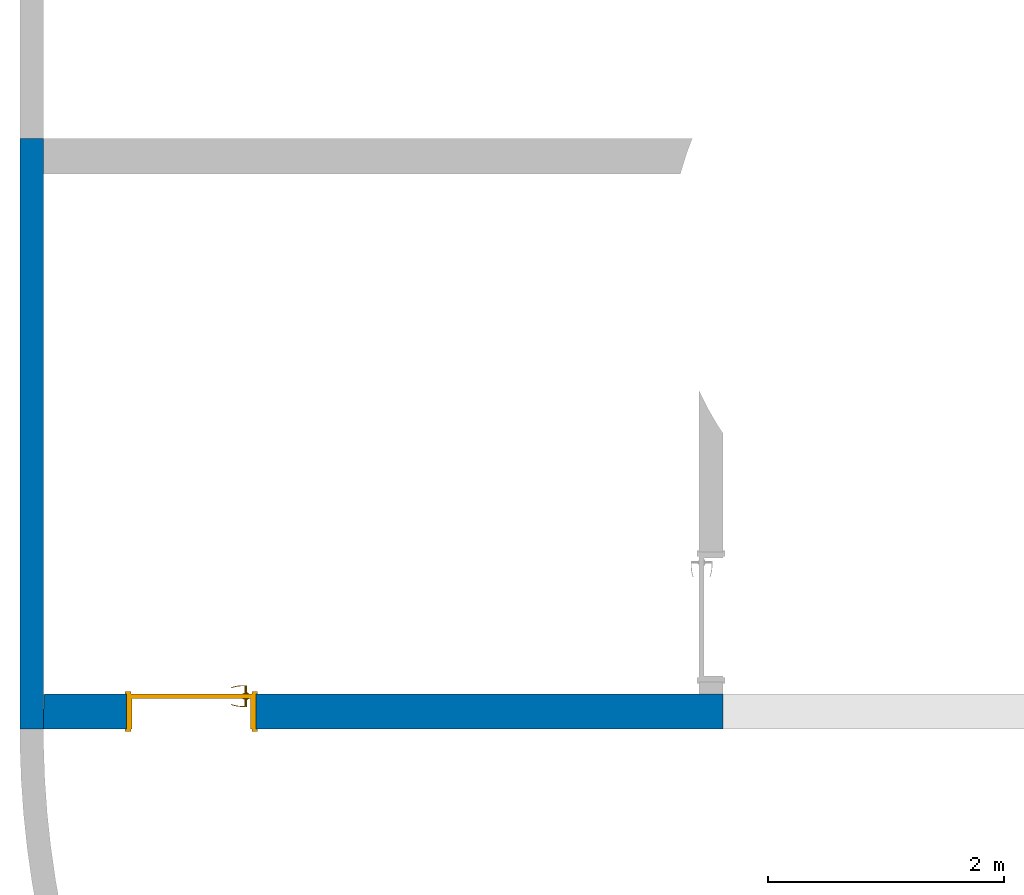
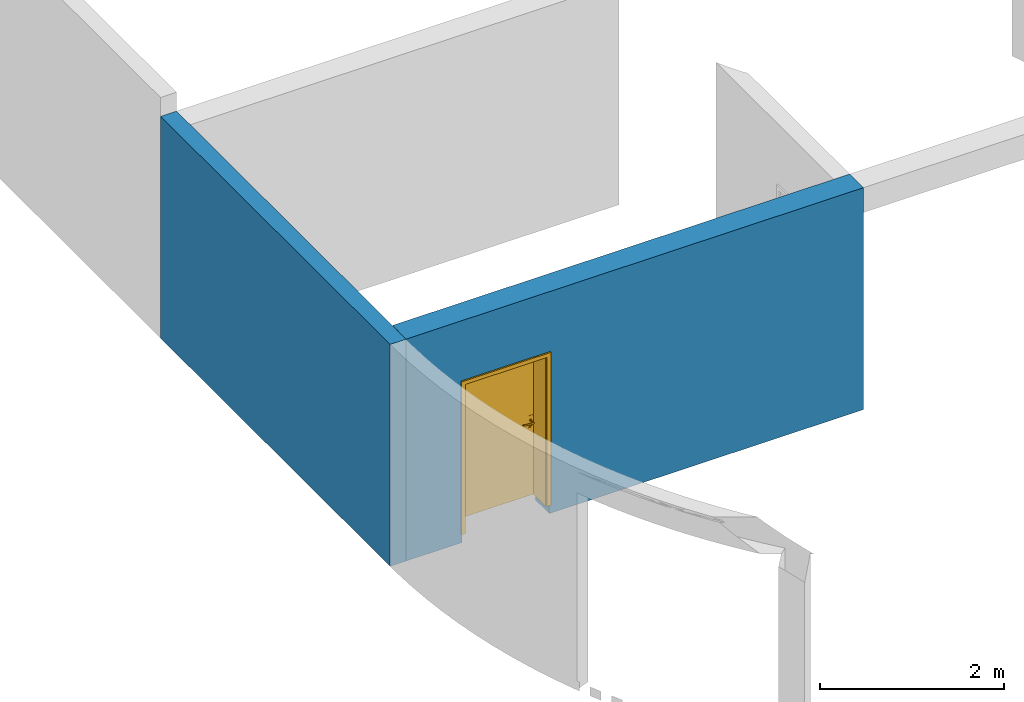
# One storey, part 2 of 6: 2 walls, 1 door, 1 opening.
"""IFC4 building model written with IfcOpenShell, lengths in millimetres."""

import ifcopenshell
import ifcopenshell.guid

model = None  # the IFC model being written
_history = None  # IfcOwnerHistory: only IFC2X3 demands one
_inside = {}  # id of a spatial element -> (the spatial element, [elements in it])
_under = {}  # id of a project, library or spatial element -> (it, [spatial elements below it])
_declared = {}  # id of a project -> (the project, [libraries it declares])
_typed = {}  # id of a type object -> (the type object, [elements of that type])
_made_of = {}  # id of a material, layer set ... -> (it, [elements and type objects made of it])


def new_model(schema):
    """Start an empty IFC model of exactly this schema.

    Asked for "IFC4X3", IfcOpenShell would pick the latest addendum, in which some entities
    have other attributes; the version numbers below select the first issue.
    IFC2X3 requires an IfcOwnerHistory on every rooted entity: one is made here for all.
    """
    global model, _history
    if schema == "IFC4X3":
        model = ifcopenshell.file(schema_version=(4, 3, 0, 0))
    else:
        model = ifcopenshell.file(schema=schema)
    _inside.clear()
    _under.clear()
    _declared.clear()
    _typed.clear()
    _made_of.clear()
    _history = None
    if model.schema == "IFC2X3":
        org = make("IfcOrganization", Name="unknown")
        user = make(
            "IfcPersonAndOrganization",
            ThePerson=make("IfcPerson", FamilyName="unknown"),
            TheOrganization=org,
        )
        app = make(
            "IfcApplication",
            ApplicationDeveloper=org,
            Version="unknown",
            ApplicationFullName="unknown",
            ApplicationIdentifier="unknown",
        )
        _history = make(
            "IfcOwnerHistory",
            OwningUser=user,
            OwningApplication=app,
            ChangeAction="ADDED",
            CreationDate=0,
        )
    return model


def make(cls, **values):
    """One entity of the class cls with the attributes given. An attribute that is None is left unset."""
    return model.create_entity(
        cls, **{name: value for name, value in values.items() if value is not None}
    )


def entity(cls, *values):
    """Any entity or typed value of the class cls, its attributes in the order of the schema. None: left unset."""
    e = model.create_entity(cls)
    for i, value in enumerate(values):
        if value is not None:
            e[i] = value
    return e


def rooted(cls, **values):
    """An entity with a GlobalId (a new one), such as an element, a storey or a relation."""
    return make(cls, GlobalId=ifcopenshell.guid.new(), OwnerHistory=_history, **values)


def si_unit(unit_type, name, prefix=None):
    """IfcSIUnit, for example si_unit("LENGTHUNIT", "METRE", prefix="MILLI")."""
    return make("IfcSIUnit", UnitType=unit_type, Prefix=prefix, Name=name)


def converted_unit(unit_type, name, factor, base, dimensions=None, offset=None):
    """IfcConversionBasedUnit, such as the inch: factor (a typed value) times the base unit."""
    return make(
        "IfcConversionBasedUnit"
        if offset is None
        else "IfcConversionBasedUnitWithOffset",
        ConversionOffset=offset,
        Dimensions=None
        if dimensions is None
        else entity("IfcDimensionalExponents", *dimensions),
        UnitType=unit_type,
        Name=name,
        ConversionFactor=make(
            "IfcMeasureWithUnit", ValueComponent=factor, UnitComponent=base
        ),
    )


def derived_unit(unit_type, elements):
    """IfcDerivedUnit: a product of units, each with its exponent."""
    return make(
        "IfcDerivedUnit",
        Elements=[
            make("IfcDerivedUnitElement", Unit=unit, Exponent=power)
            for unit, power in elements
        ],
        UnitType=unit_type,
    )


def assignment(units):
    """IfcUnitAssignment: the units of a project."""
    return None if units is None else make("IfcUnitAssignment", Units=units)


def point(xyz):
    """IfcCartesianPoint."""
    return None if xyz is None else make("IfcCartesianPoint", Coordinates=xyz)


def direction(xyz):
    """IfcDirection."""
    return None if xyz is None else make("IfcDirection", DirectionRatios=xyz)


def frame(location, z_axis=None, x_axis=None):
    """IfcAxis2Placement3D, a coordinate frame: its origin and axes. An axis left out is left unset."""
    return make(
        "IfcAxis2Placement3D",
        Location=point(location),
        Axis=direction(z_axis),
        RefDirection=direction(x_axis),
    )


def origin_with_axes():
    """The frame at (0, 0, 0) with the z axis (0, 0, 1) and the x axis (1, 0, 0) written out."""
    return frame((0.0, 0.0, 0.0), z_axis=(0.0, 0.0, 1.0), x_axis=(1.0, 0.0, 0.0))


def place(relative_to, where):
    """IfcLocalPlacement: puts the frame where relative to a parent placement (None: the world)."""
    return make(
        "IfcLocalPlacement", PlacementRelTo=relative_to, RelativePlacement=where
    )


def context(
    kind, dimensions, precision=None, world=None, true_north=None, identifier=None
):
    """IfcGeometricRepresentationContext, for example the 3D "Model" context."""
    return make(
        "IfcGeometricRepresentationContext",
        ContextIdentifier=identifier,
        ContextType=kind,
        CoordinateSpaceDimension=dimensions,
        Precision=precision,
        WorldCoordinateSystem=world,
        TrueNorth=true_north,
    )


def subcontext(parent, identifier, kind, view, scale=None):
    """IfcGeometricRepresentationSubContext, for example "Body" below "Model"."""
    return make(
        "IfcGeometricRepresentationSubContext",
        ContextIdentifier=identifier,
        ContextType=kind,
        ParentContext=parent,
        TargetScale=scale,
        TargetView=view,
    )


def project(units=None, contexts=None):
    """IfcProject with its units and contexts."""
    return rooted(
        "IfcProject",
        Name="project",
        RepresentationContexts=contexts,
        UnitsInContext=assignment(units),
    )


def spatial(cls, under=None, at=None, **own):
    """A site, building, storey or space (cls), placed at a placement, below another one or the project."""
    s = rooted(cls, ObjectPlacement=at, **own)
    if under is not None:
        _under.setdefault(under.id(), (under, []))[1].append(s)
    return s


def point_list(points):
    """IfcCartesianPointList2D or 3D."""
    cls = (
        "IfcCartesianPointList2D" if len(points[0]) == 2 else "IfcCartesianPointList3D"
    )
    return make(cls, CoordList=points)


def polygons(points, faces, closed=None, point_numbers=None):
    """IfcPolygonalFaceSet: a face is its outer loop, then its inner loops; points numbered from 1."""
    made = []
    for loops in faces:
        if len(loops) == 1:
            made.append(make("IfcIndexedPolygonalFace", CoordIndex=loops[0]))
        else:
            made.append(
                make(
                    "IfcIndexedPolygonalFaceWithVoids",
                    CoordIndex=loops[0],
                    InnerCoordIndices=loops[1:],
                )
            )
    return make(
        "IfcPolygonalFaceSet",
        Coordinates=point_list(points),
        Closed=closed,
        Faces=made,
        PnIndex=point_numbers,
    )


def shape(context_of_items, identifier, shape_type, items):
    """IfcShapeRepresentation: the items that make up one representation, for example the "Body"."""
    return make(
        "IfcShapeRepresentation",
        ContextOfItems=context_of_items,
        RepresentationIdentifier=identifier,
        RepresentationType=shape_type,
        Items=items,
    )


def material(Name=None, Category=None):
    """IfcMaterial."""
    return make("IfcMaterial", Name=Name, Category=Category)


def constituent(of_material, Name=None, Category=None, fraction=None):
    """IfcMaterialConstituent: one of the materials an element consists of."""
    return make(
        "IfcMaterialConstituent",
        Name=Name,
        Material=of_material,
        Fraction=fraction,
        Category=Category,
    )


def constituent_set(constituents=None, Name=None):
    """IfcMaterialConstituentSet."""
    return make(
        "IfcMaterialConstituentSet", Name=Name, MaterialConstituents=constituents
    )


def made_of(thing, what):
    """Note that an element or type object is made of a material, layer set ...; save() writes the relation."""
    if what is not None:
        _made_of.setdefault(what.id(), (what, []))[1].append(thing)
    return thing


def type_object(cls, material=None, **own):
    """A type object (cls), such as IfcWallType, which elements share."""
    return made_of(rooted(cls, **own), material)


def element(
    cls,
    number,
    at=None,
    inside=None,
    cuts=None,
    type_object=None,
    material=None,
    context=None,
    identifier="Body",
    shape_type=None,
    held_by="IfcProductDefinitionShape",
    body=None,
    shapes=None,
    **own,
):
    """One element of the class cls, such as IfcWall. Its Tag is "e" and its number.

    at: its placement. inside: the storey or other place that contains it. cuts: it is an
    opening in that element (IfcRelVoidsElement). A single representation is given by context,
    identifier, shape_type and body (its items); several are given by shapes. held_by: the class
    of the entity that holds the representations. save() writes the other relations.
    """
    e = rooted(cls, Tag="e%d" % number, ObjectPlacement=at, **own)
    if body is not None:
        shapes = [shape(context, identifier, shape_type, body)]
    if shapes is not None:
        e.Representation = make(held_by, Representations=shapes)
    if inside is not None:
        _inside.setdefault(inside.id(), (inside, []))[1].append(e)
    if cuts is not None:
        rooted(
            "IfcRelVoidsElement", RelatingBuildingElement=cuts, RelatedOpeningElement=e
        )
    if type_object is not None:
        _typed.setdefault(type_object.id(), (type_object, []))[1].append(e)
    return made_of(e, material)


def fill(opening, filler):
    """IfcRelFillsElement: the door or window that sits in an opening."""
    return rooted(
        "IfcRelFillsElement",
        RelatingOpeningElement=opening,
        RelatedBuildingElement=filler,
    )


def aggregate(whole, parts):
    """IfcRelAggregates: a whole, such as a stair, and the parts it consists of."""
    return rooted("IfcRelAggregates", RelatingObject=whole, RelatedObjects=parts)


def save(model, path):
    """Write the relations noted so far, then the file.

    IfcRelAggregates (storeys below a building ...), IfcRelContainedInSpatialStructure (elements
    in a storey), IfcRelDefinesByType, IfcRelAssociatesMaterial and IfcRelDeclares: one each for
    every whole, place, type object, material and project.
    """
    for whole, parts in _under.values():
        aggregate(whole, parts)
    for where, things in _inside.values():
        rooted(
            "IfcRelContainedInSpatialStructure",
            RelatedElements=things,
            RelatingStructure=where,
        )
    for kind, things in _typed.values():
        rooted("IfcRelDefinesByType", RelatedObjects=things, RelatingType=kind)
    for what, things in _made_of.values():
        rooted("IfcRelAssociatesMaterial", RelatedObjects=things, RelatingMaterial=what)
    for by, libraries in _declared.values():
        rooted("IfcRelDeclares", RelatingContext=by, RelatedDefinitions=libraries)
    model.write(path)


model = new_model("IFC4")

# Units and contexts
model_context = context("Model", 3, precision=0.01, world=origin_with_axes(), true_north=direction((0.0, 1.0)))
body_context = subcontext(model_context, "Body", "Model", "MODEL_VIEW")
ifc_project = project(units=[si_unit("LENGTHUNIT", "METRE", prefix="MILLI"), si_unit("AREAUNIT", "SQUARE_METRE"), si_unit("VOLUMEUNIT", "CUBIC_METRE"), converted_unit("PLANEANGLEUNIT", "DEGREE", entity("IfcPlaneAngleMeasure", 0.0174532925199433), si_unit("PLANEANGLEUNIT", "RADIAN"), dimensions=[0, 0, 0, 0, 0, 0, 0]), converted_unit("TIMEUNIT", "Year", entity("IfcTimeMeasure", 31557600.0), si_unit("TIMEUNIT", "SECOND"), dimensions=[0, 0, 1, 0, 0, 0, 0]), si_unit("MASSUNIT", "GRAM", prefix="KILO"), si_unit("THERMODYNAMICTEMPERATUREUNIT", "DEGREE_CELSIUS"), si_unit("LUMINOUSINTENSITYUNIT", "LUMEN"), si_unit("ENERGYUNIT", "JOULE", prefix="MEGA"), derived_unit("THERMALCONDUCTANCEUNIT", [(si_unit("POWERUNIT", "WATT"), 1), (si_unit("LENGTHUNIT", "METRE"), -1), (si_unit("THERMODYNAMICTEMPERATUREUNIT", "KELVIN"), -1)]), derived_unit("SPECIFICHEATCAPACITYUNIT", [(si_unit("ENERGYUNIT", "JOULE"), 1), (si_unit("MASSUNIT", "GRAM", prefix="KILO"), -1), (si_unit("THERMODYNAMICTEMPERATUREUNIT", "KELVIN"), -1)]), derived_unit("MASSDENSITYUNIT", [(si_unit("MASSUNIT", "GRAM", prefix="KILO"), 1), (si_unit("VOLUMEUNIT", "CUBIC_METRE"), -1)])], contexts=[model_context])

# Site, building, storey
site_placement = place(None, origin_with_axes())
site = spatial("IfcSite", under=ifc_project, at=site_placement, Name="Exteriér", CompositionType="ELEMENT")
building_placement = place(site_placement, origin_with_axes())
building = spatial("IfcBuilding", under=site, at=building_placement, Name="Univerzitní lezecké centrum", CompositionType="ELEMENT")
storey_placement = place(building_placement, origin_with_axes())
storey = spatial("IfcBuildingStorey", under=building, at=storey_placement, Name="1.NP", CompositionType="ELEMENT", Elevation=0.0)

# Wall
ifc_material_1 = material(Name="Beton vyztužený - vnější svislé kce")
ifc_constituent_1 = constituent(ifc_material_1, Name="Beton vyztužený - vnější svislé kce")
ifc_constituent_set_1 = constituent_set(constituents=[ifc_constituent_1], Name="!Vnější betonová stěna 200 mm")
wall_type_1 = type_object("IfcWallType", Name="!Vnější betonová stěna 200 mm 200", PredefinedType="NOTDEFINED")
wall_1_placement = place(storey_placement, frame((-5550.148351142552, 4700.000000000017, -120.000000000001), z_axis=(0.0, 0.0, 1.0), x_axis=(0.0, -1.0, 0.0)))
element("IfcWall", 1, at=wall_1_placement, inside=storey, type_object=wall_type_1, material=ifc_constituent_set_1, Name="St01", PredefinedType="NOTDEFINED", context=body_context, shape_type="Tessellation", body=[
    polygons([(5000.0, 0.0, 0.0), (5000.0, -200.0000000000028, 0.0), (0.0, -200.0000000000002, 0.0), (0.0, 0.0, 0.0), (5000.0, 0.0, 2950.000000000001), (5000.0, -200.000000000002, 2950.000000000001), (0.0, -200.0000000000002, 2950.000000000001), (0.0, 0.0, 2950.000000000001)], [[[1, 2, 3, 4]], [[2, 1, 5, 6]], [[2, 6, 7, 3]], [[8, 4, 3, 7]], [[5, 1, 4, 8]], [[6, 5, 8, 7]]], closed=True),
])

# Wall, opening, door
ifc_material_2 = material(Name="Beton vyztužený - vnitřní svislé kce")
ifc_constituent_2 = constituent(ifc_material_2, Name="Beton vyztužený - vnitřní svislé kce")
ifc_constituent_set_2 = constituent_set(constituents=[ifc_constituent_2], Name="!Vnitřní betonová stěna 300 mm")
wall_type_2 = type_object("IfcWallType", Name="!Vnitřní betonová stěna 300 mm 300", PredefinedType="NOTDEFINED")
wall_2_placement = place(storey_placement, frame((-5550.148351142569, -299.9999999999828, -120.000000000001), z_axis=(0.0, 0.0, 1.0), x_axis=(1.0, 0.0, 0.0)))
wall_2 = element("IfcWall", 2, at=wall_2_placement, inside=storey, type_object=wall_type_2, material=ifc_constituent_set_2, Name="St04", PredefinedType="NOTDEFINED", context=body_context, shape_type="Tessellation", body=[
    polygons([(699.9999301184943, -3.492870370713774e-05, 0.4999999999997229), (699.9999301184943, 300.0000738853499, 0.4999999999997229), (700.0000000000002, 300.0000119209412, 120.000000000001), (700.0000000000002, 0.0, 120.000000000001), (699.9999301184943, 300.0000738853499, 0.0), (699.9999301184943, -3.492870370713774e-05, 0.0), (1800.000087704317, 300.0000738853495, 0.0), (1800.000087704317, 300.0000738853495, 0.4999999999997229), (1800.0, 300.0000119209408, 120.000000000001), (1800.0, 299.9999999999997, 2140.000000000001), (700.0000000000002, 299.9999999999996, 2140.000000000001), (5.610552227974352, 300.0000119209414, 0.0), (5.610552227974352, 300.0000119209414, 2950.000000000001), (5750.148356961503, 299.9999999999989, 2950.000000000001), (5750.148352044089, 299.9999999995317, 1440.000000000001), (5750.148352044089, 299.9999999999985, 120.000000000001), (5750.148352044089, 299.9999999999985, 0.0), (700.0000000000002, 0.0, 2140.000000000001), (1800.000087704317, -3.492870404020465e-05, 0.4999999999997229), (1800.000087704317, -3.492870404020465e-05, 0.0), (5750.176837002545, 0.0, 0.0), (5750.176837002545, 0.0, 120.000000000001), (5750.176837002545, -4.68292071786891e-10, 1440.000000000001), (5750.176841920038, 0.0, 2950.000000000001), (0.0, 0.0, 2950.000000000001), (0.0, 0.0, 0.0), (1800.0, 0.0, 2140.000000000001), (1800.0, 0.0, 120.000000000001), (-0.00011699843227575, 142.0078008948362, 0.0), (-0.00011699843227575, 142.0078008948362, 2950.000000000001)], [[[1, 2, 3, 4]], [[5, 2, 1, 6]], [[7, 8, 9, 10, 11, 3, 2, 5, 12, 13, 14, 15, 16, 17]], [[4, 3, 11, 18]], [[19, 20, 21, 22, 23, 24, 25, 26, 6, 1, 4, 18, 27, 28]], [[5, 6, 26, 29, 12]], [[19, 8, 7, 20]], [[8, 19, 28, 9]], [[27, 10, 9, 28]], [[18, 11, 10, 27]], [[29, 30, 13, 12]], [[13, 30, 25, 24, 14]], [[14, 24, 23, 15]], [[22, 16, 15, 23]], [[21, 17, 16, 22]], [[20, 7, 17, 21]], [[25, 30, 29, 26]]], closed=True),
])
opening_placement = place(wall_2_placement, frame((1250.0, 0.0, 120.000000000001), z_axis=(0.0, 0.0, 1.0), x_axis=(1.0, 0.0, 0.0)))
opening = element("IfcOpeningElement", 3, at=opening_placement, cuts=wall_2, Name="D12", context=body_context, identifier="Reference", shape_type="Tessellation", body=[
    polygons([(-549.9999999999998, 301.0000000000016, 2020.0), (549.9999999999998, 301.0000000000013, 2020.0), (549.9999999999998, 301.0000000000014, 0.0), (-549.9999999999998, 301.0000000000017, 0.0), (-562.0000000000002, 301.0000000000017, 0.0), (-562.0000000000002, 301.0000000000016, 2032.0), (562.0000000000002, 301.0000000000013, 2032.0), (562.0000000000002, 301.0000000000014, 0.0), (-549.9999999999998, 299.9999999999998, 0.0), (549.9999999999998, 299.9999999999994, 0.0), (549.9999999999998, 0.0, 0.0), (549.9999999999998, -1.000000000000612, 0.0), (-549.9999999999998, -1.000000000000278, 0.0), (-549.9999999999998, 0.0, 0.0), (-562.0000000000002, 299.9999999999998, 0.0), (-562.0000000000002, 299.9999999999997, 2032.0), (562.0000000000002, 299.9999999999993, 2032.0), (562.0000000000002, 299.9999999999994, 0.0), (549.9999999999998, 299.9999999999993, 2020.0), (549.9999999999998, 0.0, 2020.0), (562.0000000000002, 0.0, 0.0), (562.0000000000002, -1.000000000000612, 0.0), (562.0000000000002, -1.000000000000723, 2032.0), (-562.0000000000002, -1.000000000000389, 2032.0), (-562.0000000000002, -1.000000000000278, 0.0), (-562.0000000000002, 0.0, 0.0), (-549.9999999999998, 299.9999999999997, 2020.0), (-549.9999999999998, 0.0, 2020.0), (-562.0000000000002, 0.0, 2032.0), (562.0000000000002, 0.0, 2032.0)], [[[1, 2, 3, 4]], [[3, 2, 1, 4, 5, 6, 7, 8]], [[9, 4, 3, 10, 11, 12, 13, 14]], [[4, 9, 15, 5]], [[15, 16, 6, 5]], [[16, 17, 7, 6]], [[17, 18, 8, 7]], [[10, 3, 8, 18]], [[10, 19, 20, 11]], [[12, 11, 21, 22]], [[13, 12, 22, 23, 24, 25]], [[14, 13, 25, 26]], [[27, 9, 14, 28]], [[27, 19, 10, 18, 17, 16, 15, 9]], [[19, 27, 28, 20]], [[11, 20, 28, 14, 26, 29, 30, 21]], [[21, 30, 23, 22]], [[30, 29, 24, 23]], [[29, 26, 25, 24]]], closed=True),
])
door_type = type_object("IfcDoorType", Name="Dveře 24", OperationType="SINGLE_SWING_LEFT", PredefinedType="NOTDEFINED")
door_placement = place(opening_placement, frame((-500.0, 0.0, 0.0), z_axis=(0.0, 0.0, 1.0), x_axis=(1.0, 0.0, 0.0)))
door = element("IfcDoor", 4, at=door_placement, inside=storey, type_object=door_type, Name="D12", OverallHeight=2020.0, OverallWidth=1100.0, PredefinedType="NOTDEFINED", context=body_context, shape_type="Tessellation", body=[
    polygons([(1062.0, 0.0, 0.0), (1062.0, -19.00000000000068, 0.0), (1012.0, -19.00000000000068, 0.0), (1012.0, 0.0, 0.0), (1062.0, 0.0, 2032.0), (1062.0, -19.00000000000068, 2032.0), (1012.0, -19.00000000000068, 1982.0), (1012.0, 0.0, 1982.0)], [[[1, 2, 3, 4]], [[5, 6, 2, 1]], [[3, 2, 6, 7]], [[4, 3, 7, 8]], [[5, 1, 4, 8]], [[8, 7, 6, 5]]], closed=True),
    polygons([(-62.00000000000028, 0.0, 2032.0), (-62.00000000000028, -19.00000000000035, 2032.0), (-12.00000000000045, -19.00000000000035, 1982.0), (-12.00000000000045, 0.0, 1982.0), (-62.00000000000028, 0.0, 0.0), (-62.00000000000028, -19.00000000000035, 0.0), (-12.00000000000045, -19.00000000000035, 0.0), (-12.00000000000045, 0.0, 0.0)], [[[1, 2, 3, 4]], [[5, 6, 2, 1]], [[3, 2, 6, 7]], [[4, 3, 7, 8]], [[5, 1, 4, 8]], [[8, 7, 6, 5]]], closed=True),
    polygons([(1012.0, 318.9999999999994, 0.0), (1062.0, 318.9999999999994, 0.0), (1062.0, 299.9999999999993, 0.0), (1012.0, 299.9999999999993, 0.0), (1062.0, 318.9999999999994, 2032.0), (1012.0, 318.9999999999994, 1982.0), (1062.0, 299.9999999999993, 2032.0), (1012.0, 299.9999999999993, 1982.0)], [[[1, 2, 3, 4]], [[5, 2, 1, 6]], [[2, 5, 7, 3]], [[4, 3, 7, 8]], [[6, 1, 4, 8]], [[5, 6, 8, 7]]], closed=True),
    polygons([(-12.00000000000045, 318.9999999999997, 1982.0), (-62.00000000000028, 318.9999999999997, 2032.0), (-62.00000000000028, 299.9999999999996, 2032.0), (-12.00000000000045, 299.9999999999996, 1982.0), (-62.00000000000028, 318.9999999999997, 0.0), (-12.00000000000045, 318.9999999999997, 0.0), (-62.00000000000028, 299.9999999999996, 0.0), (-12.00000000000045, 299.9999999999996, 0.0)], [[[1, 2, 3, 4]], [[5, 2, 1, 6]], [[2, 5, 7, 3]], [[4, 3, 7, 8]], [[6, 1, 4, 8]], [[5, 6, 8, 7]]], closed=True),
    polygons([(1000.0, 259.9999999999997, 1970.0), (1000.0, 259.9999999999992, 0.0), (1000.0, 0.0, 0.0), (1000.0, 0.0, 1970.0), (1012.0, 259.9999999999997, 1970.0), (1012.0, 259.9999999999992, 0.0), (1012.0, 299.9999999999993, 0.0), (1050.0, 299.9999999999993, 0.0), (1050.0, 0.0, 0.0), (1050.0, 0.0, 1970.0), (1012.0, 299.9999999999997, 1970.0), (1050.0, 299.9999999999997, 1970.0)], [[[1, 2, 3, 4]], [[1, 5, 6, 2]], [[2, 6, 7, 8, 9, 3]], [[4, 3, 9, 10]], [[11, 5, 1, 4, 10, 12]], [[5, 11, 7, 6]], [[7, 11, 12, 8]], [[9, 8, 12, 10]]], closed=True),
    polygons([(0.0, 260.0, 1970.0), (-12.00000000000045, 260.0, 1970.0), (-12.00000000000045, 300.0000000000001, 1970.0), (-49.99999999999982, 300.0000000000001, 1970.0), (-49.99999999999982, 0.0, 1970.0), (0.0, 0.0, 1970.0), (0.0, 259.9999999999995, 0.0), (-12.00000000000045, 259.9999999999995, 0.0), (-12.00000000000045, 299.9999999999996, 0.0), (-49.99999999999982, 299.9999999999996, 0.0), (-49.99999999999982, 0.0, 0.0), (0.0, 0.0, 0.0)], [[[1, 2, 3, 4, 5, 6]], [[2, 1, 7, 8]], [[3, 2, 8, 9]], [[3, 9, 10, 4]], [[5, 4, 10, 11]], [[6, 5, 11, 12]], [[7, 1, 6, 12]], [[9, 8, 7, 12, 11, 10]]], closed=True),
    polygons([(-12.00000000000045, 259.9999999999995, 0.0), (-12.00000000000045, 299.9999999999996, 0.0), (1012.0, 299.9999999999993, 0.0), (1012.0, 259.9999999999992, 0.0), (-12.00000000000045, 259.9999999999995, 1982.0), (-12.00000000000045, 299.9999999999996, 1982.0), (1012.0, 299.9999999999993, 1982.0), (1012.0, 259.9999999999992, 1982.0)], [[[1, 2, 3, 4]], [[5, 6, 2, 1]], [[3, 2, 6, 7]], [[4, 3, 7, 8]], [[5, 1, 4, 8]], [[8, 7, 6, 5]]], closed=True),
    polygons([(1062.0, -19.00000000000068, 2032.0), (1012.0, -19.00000000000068, 1982.0), (1012.0, 0.0, 1982.0), (1062.0, 0.0, 2032.0), (-62.00000000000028, -19.00000000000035, 2032.0), (-12.00000000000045, -19.00000000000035, 1982.0), (-12.00000000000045, 0.0, 1982.0), (-62.00000000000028, 0.0, 2032.0)], [[[1, 2, 3, 4]], [[1, 5, 6, 2]], [[2, 6, 7, 3]], [[4, 3, 7, 8]], [[5, 1, 4, 8]], [[6, 5, 8, 7]]], closed=True),
    polygons([(1062.0, 318.9999999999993, 2032.0), (1062.0, 299.9999999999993, 2032.0), (1012.0, 299.9999999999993, 1982.0), (1012.0, 318.9999999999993, 1982.0), (-62.00000000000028, 318.9999999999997, 2032.0), (-62.00000000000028, 299.9999999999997, 2032.0), (-12.00000000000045, 299.9999999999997, 1982.0), (-12.00000000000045, 318.9999999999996, 1982.0)], [[[1, 2, 3, 4]], [[5, 6, 2, 1]], [[2, 6, 7, 3]], [[4, 3, 7, 8]], [[1, 4, 8, 5]], [[8, 7, 6, 5]]], closed=True),
    polygons([(1012.0, 299.9999999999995, 1982.0), (-12.00000000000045, 299.9999999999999, 1982.0), (-12.00000000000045, 299.9999999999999, 1970.0), (-49.99999999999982, 299.9999999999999, 1970.0), (-49.99999999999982, 299.9999999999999, 2020.0), (1050.0, 299.9999999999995, 2020.0), (1050.0, 299.9999999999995, 1970.0), (1012.0, 299.9999999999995, 1970.0), (1012.0, 259.9999999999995, 1982.0), (-12.00000000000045, 259.9999999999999, 1982.0), (-12.00000000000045, 259.9999999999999, 1970.0), (0.0, 259.9999999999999, 1970.0), (0.0, 0.0, 1970.0), (-49.99999999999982, 0.0, 1970.0), (-49.99999999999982, 0.0, 2020.0), (1050.0, 0.0, 2020.0), (1050.0, 0.0, 1970.0), (1012.0, 259.9999999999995, 1970.0), (1000.0, 0.0, 1970.0), (1000.0, 259.9999999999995, 1970.0)], [[[1, 2, 3, 4, 5, 6, 7, 8]], [[1, 9, 10, 2]], [[2, 10, 11, 3]], [[11, 12, 13, 14, 4, 3]], [[5, 4, 14, 15]], [[6, 5, 15, 16]], [[7, 6, 16, 17]], [[18, 8, 7, 17, 19, 20]], [[8, 18, 9, 1]], [[11, 10, 9, 18, 20, 12]], [[20, 19, 13, 12]], [[13, 19, 17, 16, 15, 14]]], closed=True),
    polygons([(990.4999999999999, 259.9999999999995, 1060.0), (933.5, 259.9999999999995, 1060.0), (933.5, 256.9999999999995, 1060.0), (990.4999999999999, 256.9999999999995, 1060.0), (990.4999999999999, 259.9999999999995, 870.0), (933.5, 259.9999999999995, 870.0), (933.5, 256.9999999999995, 870.0), (990.4999999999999, 256.9999999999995, 870.0)], [[[1, 2, 3, 4]], [[1, 5, 6, 2]], [[2, 6, 7, 3]], [[4, 3, 7, 8]], [[5, 1, 4, 8]], [[6, 5, 8, 7]]], closed=True),
    polygons([(961.9999999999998, 195.9999999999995, 990.0), (967.0000000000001, 195.9999999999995, 991.3397459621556), (967.0000000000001, 188.9999999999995, 991.3397459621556), (961.9999999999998, 188.9999999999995, 990.0), (936.9999999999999, 195.9999999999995, 990.0), (936.9999999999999, 195.9999999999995, 1010.0), (961.9999999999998, 195.9999999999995, 1010.0), (967.0000000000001, 195.9999999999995, 1008.660254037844), (970.6602540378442, 195.9999999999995, 1005.0), (972.0, 195.9999999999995, 1000.0), (970.6602540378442, 195.9999999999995, 995.0), (970.6602540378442, 188.9999999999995, 995.0), (972.0, 188.9999999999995, 1000.0), (970.6602540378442, 188.9999999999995, 1005.0), (967.0000000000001, 188.9999999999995, 1008.660254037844), (961.9999999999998, 188.9999999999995, 1010.0), (936.9999999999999, 188.9999999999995, 1010.0), (936.9999999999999, 188.9999999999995, 990.0)], [[[1, 2, 3, 4]], [[1, 5, 6, 7, 8, 9, 10, 11, 2]], [[2, 11, 12, 3]], [[4, 3, 12, 13, 14, 15, 16, 17, 18]], [[5, 1, 4, 18]], [[6, 5, 18, 17]], [[7, 6, 17, 16]], [[8, 7, 16, 15]], [[9, 8, 15, 14]], [[10, 9, 14, 13]], [[11, 10, 13, 12]]], closed=True),
    polygons([(936.9999999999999, 195.9999999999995, 1010.0), (923.9017171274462, 195.9999999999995, 1009.607300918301), (923.5960905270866, 188.9999999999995, 1009.607300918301), (936.9999999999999, 195.9999999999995, 990.0), (923.9017171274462, 195.9999999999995, 990.3926990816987), (896.8902834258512, 191.3364553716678, 1008.821902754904), (936.9999999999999, 188.9999999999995, 1010.0), (936.9999999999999, 188.9999999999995, 990.0), (897.8048372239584, 198.2831811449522, 991.1780972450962), (897.8048372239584, 198.2831811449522, 1008.821902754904), (896.8902834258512, 191.3364553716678, 991.1780972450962), (923.5960905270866, 188.9999999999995, 990.3926990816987), (872.006256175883, 202.832167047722, 991.9634954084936), (872.006256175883, 202.832167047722, 1008.036504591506), (870.4897354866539, 195.9915842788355, 1008.036504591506), (870.4897354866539, 195.9915842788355, 991.9634954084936), (846.7023167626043, 209.6123371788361, 992.7488935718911), (846.7023167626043, 209.6123371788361, 1007.251106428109), (844.5953708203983, 202.9299583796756, 1007.251106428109), (844.5953708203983, 202.9299583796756, 992.7488935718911), (838.8294420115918, 212.4778292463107, 993.0), (838.8294420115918, 212.4778292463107, 1007.0), (836.5387956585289, 205.8623119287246, 1007.0), (836.5387956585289, 205.8623119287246, 993.0)], [[[1, 2, 3]], [[1, 4, 5, 2]], [[2, 6, 3]], [[1, 3, 7]], [[5, 4, 8]], [[2, 5, 9, 10]], [[2, 10, 6]], [[3, 6, 11, 12]], [[7, 3, 12, 8]], [[5, 8, 12]], [[9, 5, 12]], [[10, 9, 13, 14]], [[10, 15, 6]], [[6, 15, 16, 11]], [[9, 12, 11]], [[13, 9, 11]], [[14, 13, 17, 18]], [[10, 14, 15]], [[15, 19, 20, 16]], [[13, 11, 16]], [[17, 13, 16]], [[18, 17, 21, 22]], [[14, 18, 19]], [[14, 19, 15]], [[19, 23, 24, 20]], [[17, 16, 20]], [[21, 17, 20]], [[22, 21, 24, 23]], [[18, 22, 23]], [[18, 23, 19]], [[21, 20, 24]]], closed=False),
    polygons([(951.6076951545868, 246.9999999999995, 994.0), (950.0000000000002, 246.9999999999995, 1000.0), (948.9999999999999, 256.9999999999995, 1000.0), (950.7416697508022, 256.9999999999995, 993.5), (956.0, 246.9999999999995, 989.6076951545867), (961.9999999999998, 246.9999999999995, 988.0), (968.0, 246.9999999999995, 989.6076951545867), (972.392304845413, 246.9999999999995, 994.0), (974.0000000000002, 246.9999999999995, 1000.0), (972.392304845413, 246.9999999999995, 1006.0), (968.0, 246.9999999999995, 1010.392304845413), (961.9999999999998, 246.9999999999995, 1012.0), (956.0, 246.9999999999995, 1010.392304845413), (951.6076951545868, 246.9999999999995, 1006.0), (950.7416697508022, 256.9999999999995, 1006.5), (955.4999999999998, 256.9999999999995, 1011.258330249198), (961.9999999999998, 256.9999999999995, 1013.0), (968.5000000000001, 256.9999999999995, 1011.258330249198), (973.2583302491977, 256.9999999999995, 1006.5), (975.0000000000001, 256.9999999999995, 1000.0), (973.2583302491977, 256.9999999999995, 993.4999999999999), (968.5000000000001, 256.9999999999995, 988.7416697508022), (961.9999999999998, 256.9999999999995, 987.0), (955.4999999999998, 256.9999999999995, 988.7416697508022)], [[[1, 2, 3, 4]], [[2, 1, 5, 6, 7, 8, 9, 10, 11, 12, 13, 14]], [[2, 14, 15, 3]], [[3, 15, 16, 17, 18, 19, 20, 21, 22, 23, 24, 4]], [[5, 1, 4, 24]], [[6, 5, 24, 23]], [[7, 6, 23, 22]], [[8, 7, 22, 21]], [[9, 8, 21, 20]], [[10, 9, 20, 19]], [[11, 10, 19, 18]], [[12, 11, 18, 17]], [[13, 12, 17, 16]], [[14, 13, 16, 15]]], closed=True),
    polygons([(944.6794919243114, 252.9999999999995, 895.0), (942.0000000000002, 252.9999999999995, 905.0), (940.0, 256.9999999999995, 905.0), (942.9474411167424, 256.9999999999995, 894.0), (952.0, 252.9999999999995, 887.6794919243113), (961.9999999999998, 252.9999999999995, 885.0), (972.0, 252.9999999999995, 887.6794919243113), (979.3205080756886, 252.9999999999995, 895.0), (982.0000000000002, 252.9999999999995, 905.0), (979.3205080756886, 252.9999999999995, 915.0), (972.0, 252.9999999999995, 922.3205080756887), (961.9999999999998, 252.9999999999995, 925.0), (952.0, 252.9999999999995, 922.3205080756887), (944.6794919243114, 252.9999999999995, 915.0), (942.9474411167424, 256.9999999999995, 916.0), (951.0000000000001, 256.9999999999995, 924.0525588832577), (961.9999999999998, 256.9999999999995, 927.0), (972.9999999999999, 256.9999999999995, 924.0525588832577), (981.0525588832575, 256.9999999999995, 916.0), (984.0, 256.9999999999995, 905.0), (981.0525588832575, 256.9999999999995, 894.0), (972.9999999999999, 256.9999999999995, 885.9474411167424), (961.9999999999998, 256.9999999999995, 883.0), (951.0000000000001, 256.9999999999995, 885.9474411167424)], [[[1, 2, 3, 4]], [[2, 1, 5, 6, 7, 8, 9, 10, 11, 12, 13, 14]], [[2, 14, 15, 3]], [[3, 15, 16, 17, 18, 19, 20, 21, 22, 23, 24, 4]], [[5, 1, 4, 24]], [[6, 5, 24, 23]], [[7, 6, 23, 22]], [[8, 7, 22, 21]], [[9, 8, 21, 20]], [[10, 9, 20, 19]], [[11, 10, 19, 18]], [[12, 11, 18, 17]], [[13, 12, 17, 16]], [[14, 13, 16, 15]]], closed=True),
    polygons([(957.050252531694, 250.9999999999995, 909.0502525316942), (955.0000000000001, 250.9999999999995, 914.0), (953.9999999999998, 252.9999999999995, 914.0), (956.3431457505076, 252.9999999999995, 908.3431457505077), (961.9999999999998, 250.9999999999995, 907.0), (966.949747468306, 250.9999999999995, 909.0502525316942), (968.9999999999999, 250.9999999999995, 914.0), (966.949747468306, 250.9999999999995, 918.9497474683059), (961.9999999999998, 250.9999999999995, 921.0), (957.050252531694, 250.9999999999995, 918.9497474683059), (956.3431457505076, 252.9999999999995, 919.6568542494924), (961.9999999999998, 252.9999999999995, 922.0), (967.6568542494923, 252.9999999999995, 919.6568542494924), (969.9999999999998, 252.9999999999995, 914.0), (967.6568542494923, 252.9999999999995, 908.3431457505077), (961.9999999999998, 252.9999999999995, 906.0)], [[[1, 2, 3, 4]], [[2, 1, 5, 6, 7, 8, 9, 10]], [[2, 10, 11, 3]], [[3, 11, 12, 13, 14, 15, 16, 4]], [[5, 1, 4, 16]], [[6, 5, 16, 15]], [[7, 6, 15, 14]], [[8, 7, 14, 13]], [[9, 8, 13, 12]], [[10, 9, 12, 11]]], closed=True),
    polygons([(961.9999999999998, 246.9999999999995, 1010.0), (956.9999999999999, 246.9999999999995, 1008.660254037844), (956.9999999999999, 195.9999999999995, 1008.660254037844), (961.9999999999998, 195.9999999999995, 1010.0), (967.0000000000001, 246.9999999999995, 1008.660254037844), (970.6602540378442, 246.9999999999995, 1005.0), (972.0, 246.9999999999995, 1000.0), (970.6602540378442, 246.9999999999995, 995.0), (967.0000000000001, 246.9999999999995, 991.3397459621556), (961.9999999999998, 246.9999999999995, 990.0), (956.9999999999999, 246.9999999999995, 991.3397459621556), (953.3397459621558, 246.9999999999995, 995.0), (952.0, 246.9999999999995, 1000.0), (953.3397459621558, 246.9999999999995, 1005.0), (953.3397459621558, 195.9999999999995, 1005.0), (952.0, 195.9999999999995, 1000.0), (953.3397459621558, 195.9999999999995, 995.0), (956.9999999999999, 195.9999999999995, 991.3397459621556), (961.9999999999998, 195.9999999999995, 990.0), (967.0000000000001, 195.9999999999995, 991.3397459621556), (970.6602540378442, 195.9999999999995, 995.0), (972.0, 195.9999999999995, 1000.0), (970.6602540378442, 195.9999999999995, 1005.0), (967.0000000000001, 195.9999999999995, 1008.660254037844)], [[[1, 2, 3, 4]], [[1, 5, 6, 7, 8, 9, 10, 11, 12, 13, 14, 2]], [[2, 14, 15, 3]], [[4, 3, 15, 16, 17, 18, 19, 20, 21, 22, 23, 24]], [[5, 1, 4, 24]], [[6, 5, 24, 23]], [[7, 6, 23, 22]], [[8, 7, 22, 21]], [[9, 8, 21, 20]], [[10, 9, 20, 19]], [[11, 10, 19, 18]], [[12, 11, 18, 17]], [[13, 12, 17, 16]], [[14, 13, 16, 15]]], closed=True),
    polygons([(990.4999999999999, 299.9999999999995, 1060.0), (990.4999999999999, 302.9999999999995, 1060.0), (933.5, 302.9999999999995, 1060.0), (933.5, 299.9999999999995, 1060.0), (990.4999999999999, 299.9999999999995, 870.0), (990.4999999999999, 302.9999999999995, 870.0), (933.5, 302.9999999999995, 870.0), (933.5, 299.9999999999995, 870.0)], [[[1, 2, 3, 4]], [[5, 6, 2, 1]], [[2, 6, 7, 3]], [[4, 3, 7, 8]], [[1, 4, 8, 5]], [[8, 7, 6, 5]]], closed=True),
    polygons([(961.9999999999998, 363.9999999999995, 990.0), (961.9999999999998, 370.9999999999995, 990.0), (967.0000000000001, 370.9999999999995, 991.3397459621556), (967.0000000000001, 363.9999999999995, 991.3397459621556), (936.9999999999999, 363.9999999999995, 990.0), (936.9999999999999, 370.9999999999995, 990.0), (936.9999999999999, 370.9999999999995, 1010.0), (961.9999999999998, 370.9999999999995, 1010.0), (967.0000000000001, 370.9999999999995, 1008.660254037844), (970.6602540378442, 370.9999999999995, 1005.0), (972.0, 370.9999999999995, 1000.0), (970.6602540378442, 370.9999999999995, 995.0), (970.6602540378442, 363.9999999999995, 995.0), (972.0, 363.9999999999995, 1000.0), (970.6602540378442, 363.9999999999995, 1005.0), (967.0000000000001, 363.9999999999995, 1008.660254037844), (961.9999999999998, 363.9999999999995, 1010.0), (936.9999999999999, 363.9999999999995, 1010.0)], [[[1, 2, 3, 4]], [[5, 6, 2, 1]], [[2, 6, 7, 8, 9, 10, 11, 12, 3]], [[4, 3, 12, 13]], [[1, 4, 13, 14, 15, 16, 17, 18, 5]], [[18, 7, 6, 5]], [[17, 8, 7, 18]], [[16, 9, 8, 17]], [[15, 10, 9, 16]], [[14, 11, 10, 15]], [[13, 12, 11, 14]]], closed=True),
    polygons([(936.9999999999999, 363.9999999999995, 1010.0), (923.5960905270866, 370.9999999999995, 1009.607300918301), (923.9017171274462, 363.9999999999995, 1009.607300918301), (936.9999999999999, 370.9999999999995, 1010.0), (896.8902834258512, 368.6635446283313, 1008.821902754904), (923.9017171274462, 363.9999999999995, 990.3926990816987), (936.9999999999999, 363.9999999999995, 990.0), (936.9999999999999, 370.9999999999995, 990.0), (923.5960905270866, 370.9999999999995, 990.3926990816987), (896.8902834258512, 368.6635446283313, 991.1780972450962), (897.8048372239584, 361.7168188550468, 1008.821902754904), (897.8048372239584, 361.7168188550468, 991.1780972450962), (870.4897354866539, 364.0084157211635, 991.9634954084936), (870.4897354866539, 364.0084157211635, 1008.036504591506), (872.006256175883, 357.1678329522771, 1008.036504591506), (872.006256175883, 357.1678329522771, 991.9634954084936), (844.5953708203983, 357.0700416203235, 992.7488935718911), (844.5953708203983, 357.0700416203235, 1007.251106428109), (846.7023167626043, 350.387662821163, 1007.251106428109), (846.7023167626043, 350.387662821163, 992.7488935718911), (836.5387956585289, 354.1376880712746, 993.0), (836.5387956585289, 354.1376880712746, 1007.0), (838.8294420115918, 347.5221707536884, 1007.0), (838.8294420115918, 347.5221707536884, 993.0)], [[[1, 2, 3]], [[1, 4, 2]], [[3, 2, 5]], [[1, 3, 6, 7]], [[4, 8, 9, 2]], [[2, 9, 10, 5]], [[3, 5, 11]], [[3, 11, 12, 6]], [[6, 8, 7]], [[6, 9, 8]], [[12, 10, 9]], [[5, 10, 13, 14]], [[11, 5, 14]], [[11, 15, 16, 12]], [[12, 9, 6]], [[16, 10, 12]], [[16, 13, 10]], [[14, 13, 17, 18]], [[11, 14, 15]], [[15, 19, 20, 16]], [[20, 13, 16]], [[20, 17, 13]], [[18, 17, 21, 22]], [[15, 14, 18]], [[15, 18, 19]], [[19, 23, 24, 20]], [[24, 17, 20]], [[24, 21, 17]], [[23, 22, 21, 24]], [[19, 18, 22]], [[19, 22, 23]]], closed=False),
    polygons([(951.6076951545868, 312.9999999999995, 994.0), (950.7416697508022, 302.9999999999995, 993.5), (948.9999999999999, 302.9999999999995, 1000.0), (950.0000000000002, 312.9999999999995, 1000.0), (956.0, 312.9999999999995, 989.6076951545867), (955.4999999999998, 302.9999999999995, 988.7416697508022), (961.9999999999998, 302.9999999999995, 987.0), (968.5000000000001, 302.9999999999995, 988.7416697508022), (973.2583302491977, 302.9999999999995, 993.4999999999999), (975.0000000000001, 302.9999999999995, 1000.0), (973.2583302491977, 302.9999999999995, 1006.5), (968.5000000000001, 302.9999999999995, 1011.258330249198), (961.9999999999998, 302.9999999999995, 1013.0), (955.4999999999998, 302.9999999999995, 1011.258330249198), (950.7416697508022, 302.9999999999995, 1006.5), (951.6076951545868, 312.9999999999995, 1006.0), (956.0, 312.9999999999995, 1010.392304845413), (961.9999999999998, 312.9999999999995, 1012.0), (968.0, 312.9999999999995, 1010.392304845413), (972.392304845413, 312.9999999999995, 1006.0), (974.0000000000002, 312.9999999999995, 1000.0), (972.392304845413, 312.9999999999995, 994.0), (968.0, 312.9999999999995, 989.6076951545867), (961.9999999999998, 312.9999999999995, 988.0)], [[[1, 2, 3, 4]], [[5, 6, 2, 1]], [[3, 2, 6, 7, 8, 9, 10, 11, 12, 13, 14, 15]], [[4, 3, 15, 16]], [[4, 16, 17, 18, 19, 20, 21, 22, 23, 24, 5, 1]], [[24, 7, 6, 5]], [[23, 8, 7, 24]], [[22, 9, 8, 23]], [[21, 10, 9, 22]], [[20, 11, 10, 21]], [[19, 12, 11, 20]], [[18, 13, 12, 19]], [[17, 14, 13, 18]], [[16, 15, 14, 17]]], closed=True),
    polygons([(944.6794919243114, 306.9999999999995, 895.0), (942.9474411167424, 302.9999999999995, 894.0), (940.0, 302.9999999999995, 905.0), (942.0000000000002, 306.9999999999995, 905.0), (952.0, 306.9999999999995, 887.6794919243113), (951.0000000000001, 302.9999999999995, 885.9474411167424), (961.9999999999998, 302.9999999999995, 883.0), (972.9999999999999, 302.9999999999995, 885.9474411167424), (981.0525588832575, 302.9999999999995, 894.0), (984.0, 302.9999999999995, 905.0), (981.0525588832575, 302.9999999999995, 916.0), (972.9999999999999, 302.9999999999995, 924.0525588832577), (961.9999999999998, 302.9999999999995, 927.0), (951.0000000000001, 302.9999999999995, 924.0525588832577), (942.9474411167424, 302.9999999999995, 916.0), (944.6794919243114, 306.9999999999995, 915.0), (952.0, 306.9999999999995, 922.3205080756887), (961.9999999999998, 306.9999999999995, 925.0), (972.0, 306.9999999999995, 922.3205080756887), (979.3205080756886, 306.9999999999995, 915.0), (982.0000000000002, 306.9999999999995, 905.0), (979.3205080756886, 306.9999999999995, 895.0), (972.0, 306.9999999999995, 887.6794919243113), (961.9999999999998, 306.9999999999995, 885.0)], [[[1, 2, 3, 4]], [[5, 6, 2, 1]], [[3, 2, 6, 7, 8, 9, 10, 11, 12, 13, 14, 15]], [[4, 3, 15, 16]], [[4, 16, 17, 18, 19, 20, 21, 22, 23, 24, 5, 1]], [[24, 7, 6, 5]], [[23, 8, 7, 24]], [[22, 9, 8, 23]], [[21, 10, 9, 22]], [[20, 11, 10, 21]], [[19, 12, 11, 20]], [[18, 13, 12, 19]], [[17, 14, 13, 18]], [[16, 15, 14, 17]]], closed=True),
    polygons([(957.050252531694, 308.9999999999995, 909.0502525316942), (956.3431457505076, 306.9999999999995, 908.3431457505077), (953.9999999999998, 306.9999999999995, 914.0), (955.0000000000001, 308.9999999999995, 914.0), (961.9999999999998, 308.9999999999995, 907.0), (961.9999999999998, 306.9999999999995, 906.0), (967.6568542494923, 306.9999999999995, 908.3431457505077), (969.9999999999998, 306.9999999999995, 914.0), (967.6568542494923, 306.9999999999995, 919.6568542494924), (961.9999999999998, 306.9999999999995, 922.0), (956.3431457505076, 306.9999999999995, 919.6568542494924), (957.050252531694, 308.9999999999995, 918.9497474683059), (961.9999999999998, 308.9999999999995, 921.0), (966.949747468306, 308.9999999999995, 918.9497474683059), (968.9999999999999, 308.9999999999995, 914.0), (966.949747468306, 308.9999999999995, 909.0502525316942)], [[[1, 2, 3, 4]], [[5, 6, 2, 1]], [[3, 2, 6, 7, 8, 9, 10, 11]], [[4, 3, 11, 12]], [[4, 12, 13, 14, 15, 16, 5, 1]], [[16, 7, 6, 5]], [[15, 8, 7, 16]], [[14, 9, 8, 15]], [[13, 10, 9, 14]], [[12, 11, 10, 13]]], closed=True),
    polygons([(961.9999999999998, 312.9999999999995, 1010.0), (961.9999999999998, 363.9999999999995, 1010.0), (956.9999999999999, 363.9999999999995, 1008.660254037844), (956.9999999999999, 312.9999999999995, 1008.660254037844), (967.0000000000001, 312.9999999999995, 1008.660254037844), (967.0000000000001, 363.9999999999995, 1008.660254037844), (970.6602540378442, 363.9999999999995, 1005.0), (972.0, 363.9999999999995, 1000.0), (970.6602540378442, 363.9999999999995, 995.0), (967.0000000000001, 363.9999999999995, 991.3397459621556), (961.9999999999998, 363.9999999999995, 990.0), (956.9999999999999, 363.9999999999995, 991.3397459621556), (953.3397459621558, 363.9999999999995, 995.0), (952.0, 363.9999999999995, 1000.0), (953.3397459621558, 363.9999999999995, 1005.0), (953.3397459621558, 312.9999999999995, 1005.0), (952.0, 312.9999999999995, 1000.0), (953.3397459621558, 312.9999999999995, 995.0), (956.9999999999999, 312.9999999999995, 991.3397459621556), (961.9999999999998, 312.9999999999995, 990.0), (967.0000000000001, 312.9999999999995, 991.3397459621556), (970.6602540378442, 312.9999999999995, 995.0), (972.0, 312.9999999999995, 1000.0), (970.6602540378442, 312.9999999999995, 1005.0)], [[[1, 2, 3, 4]], [[5, 6, 2, 1]], [[2, 6, 7, 8, 9, 10, 11, 12, 13, 14, 15, 3]], [[4, 3, 15, 16]], [[1, 4, 16, 17, 18, 19, 20, 21, 22, 23, 24, 5]], [[24, 7, 6, 5]], [[23, 8, 7, 24]], [[22, 9, 8, 23]], [[21, 10, 9, 22]], [[20, 11, 10, 21]], [[19, 12, 11, 20]], [[18, 13, 12, 19]], [[17, 14, 13, 18]], [[16, 15, 14, 17]]], closed=True),
])
fill(opening, door)

save(model, "model.ifc")
